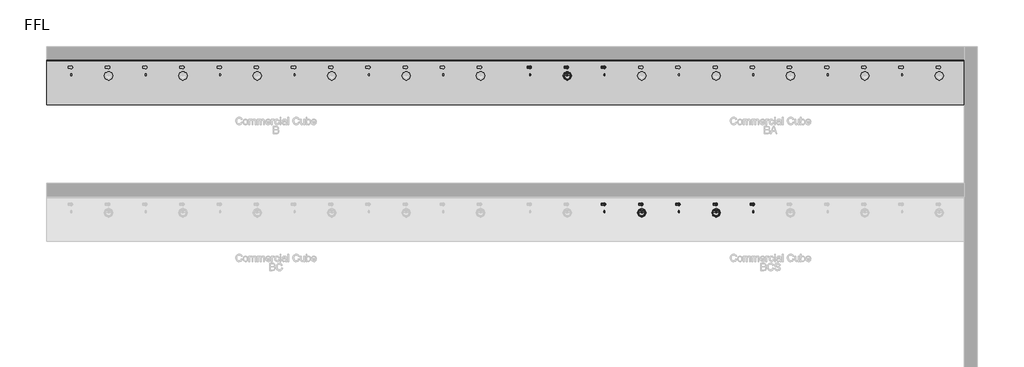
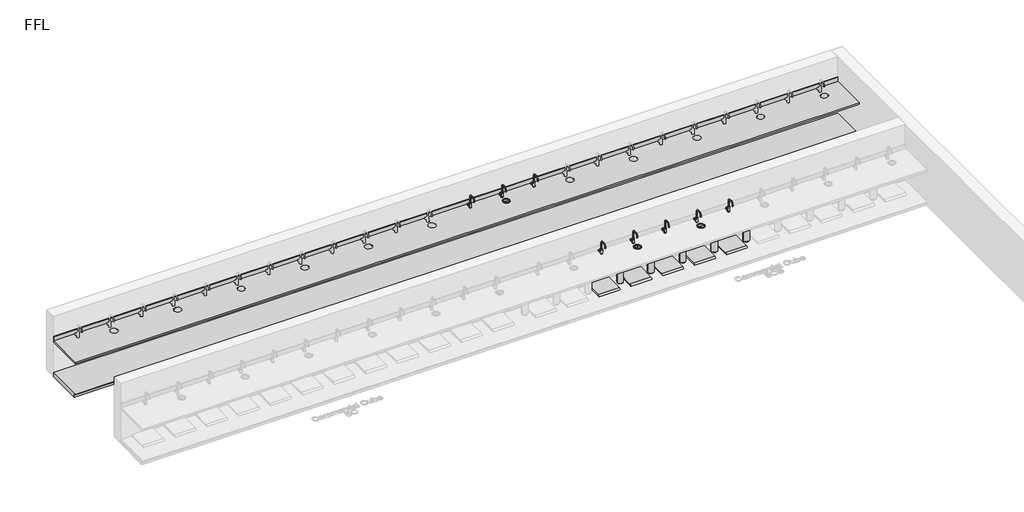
# One storey, part 7 of 14: 21 flow terminals, 2 furniture elements.
"""IFC4 building model written with IfcOpenShell, lengths in millimetres."""

from ifc_helpers import new_model, si_unit, frame, origin, place, context, project, spatial, polyline, circle_curve, transform, mapped, element, save
from ifc_brep_helpers import plane_surface, revolved_surface, advanced_brep
from components import bcs_and_bc_6de74493, bright_chrome_cb32e6d9, bright_chrome_743c02cf, co2_gas_cylinder_20234e14, generic_plinth_900mm_f287d53f

model = new_model("IFC4")

# Units and contexts
model_context = context("Model", 3, world=origin())
ifc_project = project(units=[si_unit("LENGTHUNIT", "METRE", prefix="MILLI")], contexts=[model_context])

# Site, building, storey
site = spatial("IfcSite", under=ifc_project)
building = spatial("IfcBuilding", under=site)
storey = spatial("IfcBuildingStorey", under=building, Name="FFL", Elevation=0.0)

# Flow terminals
placement = place(None, origin())
bcs_and_bc_shape = bcs_and_bc_6de74493(model_context)
element("IfcFlowTerminal", 1, ObjectType="z_PlumFixt_Zip_Vent Tray : BCS and BC", at=placement, inside=storey, context=model_context, shape_type="MappedRepresentation", body=[
    mapped(bcs_and_bc_shape, transform((4279.2647071, 4945.7393304, 100.0), x_axis=(1.0, 0.0, 0.0), y_axis=(0.0, 1.0, 0.0), z_axis=(0.0, 0.0, 1.0))),
])
element("IfcFlowTerminal", 2, ObjectType="z_PlumFixt_Zip_Vent Tray : BCS and BC", at=placement, inside=storey, context=model_context, shape_type="MappedRepresentation", body=[
    mapped(bcs_and_bc_shape, transform((5029.2647071, 4945.7393304, 100.0), x_axis=(1.0, 0.0, 0.0), y_axis=(0.0, 1.0, 0.0), z_axis=(0.0, 0.0, 1.0))),
])
element("IfcFlowTerminal", 3, ObjectType="z_PlumFixt_Zip_Vent Tray : BCS and BC", at=placement, inside=storey, context=model_context, shape_type="MappedRepresentation", body=[
    mapped(bcs_and_bc_shape, transform((5779.2647071, 4945.7393304, 100.0), x_axis=(1.0, 0.0, 0.0), y_axis=(0.0, 1.0, 0.0), z_axis=(0.0, 0.0, 1.0))),
])
element("IfcFlowTerminal", 4, ObjectType="z_PlumFixt_Zip_Vent Tray : BCS and BC", at=placement, inside=storey, context=model_context, shape_type="MappedRepresentation", body=[
    mapped(bcs_and_bc_shape, transform((6529.2647071, 4945.7393304, 100.0), x_axis=(1.0, 0.0, 0.0), y_axis=(0.0, 1.0, 0.0), z_axis=(0.0, 0.0, 1.0))),
])
element("IfcFlowTerminal", 5, ObjectType="z_PlumFixt_Zip_Vent Tray : BCS and BC", at=placement, inside=storey, context=model_context, shape_type="MappedRepresentation", body=[
    mapped(bcs_and_bc_shape, transform((7279.2647071, 4945.7393304, 100.0), x_axis=(1.0, 0.0, 0.0), y_axis=(0.0, 1.0, 0.0), z_axis=(0.0, 0.0, 1.0))),
])
bright_chrome_shape = bright_chrome_cb32e6d9(model_context)
element("IfcFlowTerminal", 6, ObjectType="z_PlumFixt_Zip_Cube : Bright Chrome", at=placement, inside=storey, context=model_context, shape_type="MappedRepresentation", body=[
    mapped(bright_chrome_shape, transform((2762.2647071, 7610.7393304, 900.0), x_axis=(1.0000000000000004, 0.0, 0.0), y_axis=(0.0, 1.0000000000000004, 0.0), z_axis=(0.0, 0.0, 1.0))),
])
bright_chrome_2_shape = bright_chrome_743c02cf(model_context)
element("IfcFlowTerminal", 7, ObjectType="z_PlumFixt_Zip_Font : Brushed Chrome", at=placement, inside=storey, context=model_context, shape_type="MappedRepresentation", body=[
    mapped(bright_chrome_2_shape, transform((3529.2647071, 7511.2393304, 900.0), x_axis=(1.0000000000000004, 0.0, 0.0), y_axis=(0.0, 1.0000000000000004, 0.0), z_axis=(0.0, 0.0, 1.0))),
])
element("IfcFlowTerminal", 8, ObjectType="z_PlumFixt_Zip_Font : Brushed Chrome", at=placement, inside=storey, context=model_context, shape_type="MappedRepresentation", body=[
    mapped(bright_chrome_2_shape, transform((5029.2647071, 4751.2393304, 900.0), x_axis=(1.0000000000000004, 0.0, 0.0), y_axis=(0.0, 1.0000000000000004, 0.0), z_axis=(0.0, 0.0, 1.0))),
])
element("IfcFlowTerminal", 9, ObjectType="z_PlumFixt_Zip_Font : Brushed Chrome", at=placement, inside=storey, context=model_context, shape_type="MappedRepresentation", body=[
    mapped(bright_chrome_2_shape, transform((6529.2647071, 4751.2393304, 900.0), x_axis=(1.0000000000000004, 0.0, 0.0), y_axis=(0.0, 1.0000000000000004, 0.0), z_axis=(0.0, 0.0, 1.0))),
])
element("IfcFlowTerminal", 10, ObjectType="z_PlumFixt_Zip_Cube : Brushed Chrome", at=placement, inside=storey, context=model_context, shape_type="MappedRepresentation", body=[
    mapped(bright_chrome_shape, transform((3512.2647071, 7610.7393304, 900.0), x_axis=(1.0000000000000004, 0.0, 0.0), y_axis=(0.0, 1.0000000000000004, 0.0), z_axis=(0.0, 0.0, 1.0))),
])
element("IfcFlowTerminal", 11, ObjectType="z_PlumFixt_Zip_Cube : Brushed Gold", at=placement, inside=storey, context=model_context, shape_type="MappedRepresentation", body=[
    mapped(bright_chrome_shape, transform((4262.2647071, 7610.7393304, 900.0), x_axis=(1.0000000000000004, 0.0, 0.0), y_axis=(0.0, 1.0000000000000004, 0.0), z_axis=(0.0, 0.0, 1.0))),
])
element("IfcFlowTerminal", 12, ObjectType="z_PlumFixt_Zip_Cube : Brushed Gold", at=placement, inside=storey, context=model_context, shape_type="MappedRepresentation", body=[
    mapped(bright_chrome_shape, transform((4262.2647071, 4850.7393304, 900.0), x_axis=(1.0000000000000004, 0.0, 0.0), y_axis=(0.0, 1.0000000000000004, 0.0), z_axis=(0.0, 0.0, 1.0))),
])
element("IfcFlowTerminal", 13, ObjectType="z_PlumFixt_Zip_Cube : Brushed Nickel", at=placement, inside=storey, context=model_context, shape_type="MappedRepresentation", body=[
    mapped(bright_chrome_shape, transform((5012.2647071, 4850.7393304, 900.0), x_axis=(1.0000000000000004, 0.0, 0.0), y_axis=(0.0, 1.0000000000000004, 0.0), z_axis=(0.0, 0.0, 1.0))),
])
element("IfcFlowTerminal", 14, ObjectType="z_PlumFixt_Zip_Cube : Brushed Rose Gold", at=placement, inside=storey, context=model_context, shape_type="MappedRepresentation", body=[
    mapped(bright_chrome_shape, transform((5762.2647071, 4850.7393304, 900.0), x_axis=(1.0000000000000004, 0.0, 0.0), y_axis=(0.0, 1.0000000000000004, 0.0), z_axis=(0.0, 0.0, 1.0))),
])
co2_gas_cylinder_shape = co2_gas_cylinder_20234e14(model_context)
element("IfcFlowTerminal", 15, ObjectType="z_PlumFixt_Zip_CO2 Gas Cylinder : CO2 Gas Cylinder", at=placement, inside=storey, context=model_context, shape_type="MappedRepresentation", body=[
    mapped(co2_gas_cylinder_shape, transform((4662.2647071, 4750.7393304, 100.0), x_axis=(-1.0, 0.0, 0.0), y_axis=(0.0, -1.0, 0.0), z_axis=(0.0, 0.0, 1.0))),
])
element("IfcFlowTerminal", 16, ObjectType="z_PlumFixt_Zip_CO2 Gas Cylinder : CO2 Gas Cylinder", at=placement, inside=storey, context=model_context, shape_type="MappedRepresentation", body=[
    mapped(co2_gas_cylinder_shape, transform((5384.2647071, 4749.2393304, 100.0), x_axis=(-1.0, 0.0, 0.0), y_axis=(0.0, -1.0, 0.0), z_axis=(0.0, 0.0, 1.0))),
])
element("IfcFlowTerminal", 17, ObjectType="z_PlumFixt_Zip_CO2 Gas Cylinder : CO2 Gas Cylinder", at=placement, inside=storey, context=model_context, shape_type="MappedRepresentation", body=[
    mapped(co2_gas_cylinder_shape, transform((6134.2647071, 4749.2393304, 100.0), x_axis=(-1.0, 0.0, 0.0), y_axis=(0.0, -1.0, 0.0), z_axis=(0.0, 0.0, 1.0))),
])
element("IfcFlowTerminal", 18, ObjectType="z_PlumFixt_Zip_CO2 Gas Cylinder : CO2 Gas Cylinder", at=placement, inside=storey, context=model_context, shape_type="MappedRepresentation", body=[
    mapped(co2_gas_cylinder_shape, transform((6884.2647071, 4749.2393304, 100.0), x_axis=(-1.0, 0.0, 0.0), y_axis=(0.0, -1.0, 0.0), z_axis=(0.0, 0.0, 1.0))),
])
element("IfcFlowTerminal", 19, ObjectType="z_PlumFixt_Zip_CO2 Gas Cylinder : CO2 Gas Cylinder", at=placement, inside=storey, context=model_context, shape_type="MappedRepresentation", body=[
    mapped(co2_gas_cylinder_shape, transform((7634.2647071, 4749.2393304, 100.0), x_axis=(-1.0, 0.0, 0.0), y_axis=(0.0, -1.0, 0.0), z_axis=(0.0, 0.0, 1.0))),
])
element("IfcFlowTerminal", 20, ObjectType="z_PlumFixt_Zip_Cube : Gloss Black", at=placement, inside=storey, context=model_context, shape_type="MappedRepresentation", body=[
    mapped(bright_chrome_shape, transform((6512.2647071, 4850.7393304, 900.0), x_axis=(1.0000000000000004, 0.0, 0.0), y_axis=(0.0, 1.0000000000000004, 0.0), z_axis=(0.0, 0.0, 1.0))),
])
element("IfcFlowTerminal", 21, ObjectType="z_PlumFixt_Zip_Cube : Gold", at=placement, inside=storey, context=model_context, shape_type="MappedRepresentation", body=[
    mapped(bright_chrome_shape, transform((7262.2647071, 4850.7393304, 900.0), x_axis=(1.0000000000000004, 0.0, 0.0), y_axis=(0.0, 1.0000000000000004, 0.0), z_axis=(0.0, 0.0, 1.0))),
])

# Furniture
element("IfcFurniture", 22, ObjectType="Counter Top : 900mm Depth", at=placement, inside=storey, context=model_context, shape_type="AdvancedBrep", body=[
    advanced_brep(
    [(-6969.7352929, 6948.2393304, 900.0), (11530.2647071, 6948.2393304, 900.0), (11530.2647071, 7829.1893304, 900.0), (-6969.7352929, 7829.1893304, 900.0), (-6493.7352929, 7698.2393304, 900.0), (-6445.7352929, 7698.2393304, 900.0), (-5743.7352929, 7698.2393304, 900.0), (-5695.7352929, 7698.2393304, 900.0), (-5787.9352929, 7526.2393304, 900.0), (-5651.5352929, 7526.2393304, 900.0), (-4993.7352929, 7698.2393304, 900.0), (-4945.7352929, 7698.2393304, 900.0), (-4243.7352929, 7698.2393304, 900.0), (-4195.7352929, 7698.2393304, 900.0), (-4287.9352929, 7526.2393304, 900.0), (-4151.5352929, 7526.2393304, 900.0), (-3493.7352929, 7698.2393304, 900.0), (-3445.7352929, 7698.2393304, 900.0), (-2743.7352929, 7698.2393304, 900.0), (-2695.7352929, 7698.2393304, 900.0), (-2787.9352929, 7526.2393304, 900.0), (-2651.5352929, 7526.2393304, 900.0), (-1993.7352929, 7698.2393304, 900.0), (-1945.7352929, 7698.2393304, 900.0), (-1243.7352929, 7698.2393304, 900.0), (-1195.7352929, 7698.2393304, 900.0), (-1287.9352929, 7526.2393304, 900.0), (-1151.5352929, 7526.2393304, 900.0), (-493.7352929, 7698.2393304, 900.0), (-445.7352929, 7698.2393304, 900.0), (256.2647071, 7698.2393304, 900.0), (304.2647071, 7698.2393304, 900.0), (212.0647071, 7526.2393304, 900.0), (348.4647071, 7526.2393304, 900.0), (1006.2647071, 7698.2393304, 900.0), (1054.2647071, 7698.2393304, 900.0), (1756.2647071, 7698.2393304, 900.0), (1804.2647071, 7698.2393304, 900.0), (1712.0647071, 7526.2393304, 900.0), (1848.4647071, 7526.2393304, 900.0), (2756.2647071, 7698.2393304, 900.0), (2804.2647071, 7698.2393304, 900.0), (3506.2647071, 7698.2393304, 900.0), (3554.2647071, 7698.2393304, 900.0), (3462.0647071, 7526.2393304, 900.0), (3598.4647071, 7526.2393304, 900.0), (4256.2647071, 7698.2393304, 900.0), (4304.2647071, 7698.2393304, 900.0), (5006.2647071, 7698.2393304, 900.0), (5054.2647071, 7698.2393304, 900.0), (4962.0647071, 7526.2393304, 900.0), (5098.4647071, 7526.2393304, 900.0), (5756.2647071, 7698.2393304, 900.0), (5804.2647071, 7698.2393304, 900.0), (6506.2647071, 7698.2393304, 900.0), (6554.2647071, 7698.2393304, 900.0), (6462.0647071, 7526.2393304, 900.0), (6598.4647071, 7526.2393304, 900.0), (7256.2647071, 7698.2393304, 900.0), (7304.2647071, 7698.2393304, 900.0), (8006.2647071, 7698.2393304, 900.0), (8054.2647071, 7698.2393304, 900.0), (7962.0647071, 7526.2393304, 900.0), (8098.4647071, 7526.2393304, 900.0), (8756.2647071, 7698.2393304, 900.0), (8804.2647071, 7698.2393304, 900.0), (9506.2647071, 7698.2393304, 900.0), (9554.2647071, 7698.2393304, 900.0), (9462.0647071, 7526.2393304, 900.0), (9598.4647071, 7526.2393304, 900.0), (10256.2647071, 7698.2393304, 900.0), (10304.2647071, 7698.2393304, 900.0), (11006.2647071, 7698.2393304, 900.0), (11054.2647071, 7698.2393304, 900.0), (10962.0647071, 7526.2393304, 900.0), (11098.4647071, 7526.2393304, 900.0), (11530.2647071, 7848.2393304, 860.0), (11530.2647071, 6948.2393304, 860.0), (-6969.7352929, 6948.2393304, 860.0), (-6969.7352929, 7848.2393304, 860.0), (-6445.7352929, 7698.2393304, 860.0), (-6493.7352929, 7698.2393304, 860.0), (-5695.7352929, 7698.2393304, 860.0), (-5743.7352929, 7698.2393304, 860.0), (-5651.5352929, 7526.2393304, 860.0), (-5787.9352929, 7526.2393304, 860.0), (-4945.7352929, 7698.2393304, 860.0), (-4993.7352929, 7698.2393304, 860.0), (-4195.7352929, 7698.2393304, 860.0), (-4243.7352929, 7698.2393304, 860.0), (-4151.5352929, 7526.2393304, 860.0), (-4287.9352929, 7526.2393304, 860.0), (-3445.7352929, 7698.2393304, 860.0), (-3493.7352929, 7698.2393304, 860.0), (-2695.7352929, 7698.2393304, 860.0), (-2743.7352929, 7698.2393304, 860.0), (-2651.5352929, 7526.2393304, 860.0), (-2787.9352929, 7526.2393304, 860.0), (-1945.7352929, 7698.2393304, 860.0), (-1993.7352929, 7698.2393304, 860.0), (-1195.7352929, 7698.2393304, 860.0), (-1243.7352929, 7698.2393304, 860.0), (-1151.5352929, 7526.2393304, 860.0), (-1287.9352929, 7526.2393304, 860.0), (-445.7352929, 7698.2393304, 860.0), (-493.7352929, 7698.2393304, 860.0), (304.2647071, 7698.2393304, 860.0), (256.2647071, 7698.2393304, 860.0), (348.4647071, 7526.2393304, 860.0), (212.0647071, 7526.2393304, 860.0), (1054.2647071, 7698.2393304, 860.0), (1006.2647071, 7698.2393304, 860.0), (1804.2647071, 7698.2393304, 860.0), (1756.2647071, 7698.2393304, 860.0), (1848.4647071, 7526.2393304, 860.0), (1712.0647071, 7526.2393304, 860.0), (2804.2647071, 7698.2393304, 860.0), (2756.2647071, 7698.2393304, 860.0), (3554.2647071, 7698.2393304, 860.0), (3506.2647071, 7698.2393304, 860.0), (3598.4647071, 7526.2393304, 860.0), (3462.0647071, 7526.2393304, 860.0), (4304.2647071, 7698.2393304, 860.0), (4256.2647071, 7698.2393304, 860.0), (5054.2647071, 7698.2393304, 860.0), (5006.2647071, 7698.2393304, 860.0), (5098.4647071, 7526.2393304, 860.0), (4962.0647071, 7526.2393304, 860.0), (5804.2647071, 7698.2393304, 860.0), (5756.2647071, 7698.2393304, 860.0), (6554.2647071, 7698.2393304, 860.0), (6506.2647071, 7698.2393304, 860.0), (6598.4647071, 7526.2393304, 860.0), (6462.0647071, 7526.2393304, 860.0), (7304.2647071, 7698.2393304, 860.0), (7256.2647071, 7698.2393304, 860.0), (8054.2647071, 7698.2393304, 860.0), (8006.2647071, 7698.2393304, 860.0), (8098.4647071, 7526.2393304, 860.0), (7962.0647071, 7526.2393304, 860.0), (8804.2647071, 7698.2393304, 860.0), (8756.2647071, 7698.2393304, 860.0), (9554.2647071, 7698.2393304, 860.0), (9506.2647071, 7698.2393304, 860.0), (9598.4647071, 7526.2393304, 860.0), (9462.0647071, 7526.2393304, 860.0), (10304.2647071, 7698.2393304, 860.0), (10256.2647071, 7698.2393304, 860.0), (11054.2647071, 7698.2393304, 860.0), (11006.2647071, 7698.2393304, 860.0), (11098.4647071, 7526.2393304, 860.0), (10962.0647071, 7526.2393304, 860.0), (-6969.7352929, 7848.2393304, 1001.6), (11530.2647071, 7848.2393304, 1001.6), (-6969.7352929, 7829.1893304, 1001.6), (11530.2647071, 7829.1893304, 1001.6)],
    [
        (0, 1),
        (1, 2),
        (2, 3),
        (3, 0),
        (4, 5, circle_curve(frame((-6469.7352929, 7698.2393304, 900.0), z_axis=(0.0, 0.0, -1.0), x_axis=(-1.0000000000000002, 0.0, 0.0)), 24.0)),
        (5, 4, circle_curve(frame((-6469.7352929, 7698.2393304, 900.0), z_axis=(0.0, 0.0, -1.0), x_axis=(-1.0000000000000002, 0.0, 0.0)), 24.0)),
        (6, 7, circle_curve(frame((-5719.7352929, 7698.2393304, 900.0), z_axis=(0.0, 0.0, -1.0), x_axis=(-1.0000000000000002, 0.0, 0.0)), 24.0)),
        (7, 6, circle_curve(frame((-5719.7352929, 7698.2393304, 900.0), z_axis=(0.0, 0.0, -1.0), x_axis=(-1.0000000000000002, 0.0, 0.0)), 24.0)),
        (8, 9, circle_curve(frame((-5719.7352929, 7526.2393304, 900.0), z_axis=(0.0, 0.0, -1.0), x_axis=(-1.0000000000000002, 0.0, 0.0)), 68.2)),
        (9, 8, circle_curve(frame((-5719.7352929, 7526.2393304, 900.0), z_axis=(0.0, 0.0, -1.0), x_axis=(-1.0000000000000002, 0.0, 0.0)), 68.2)),
        (10, 11, circle_curve(frame((-4969.7352929, 7698.2393304, 900.0), z_axis=(0.0, 0.0, -1.0), x_axis=(-1.0000000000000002, 0.0, 0.0)), 24.0)),
        (11, 10, circle_curve(frame((-4969.7352929, 7698.2393304, 900.0), z_axis=(0.0, 0.0, -1.0), x_axis=(-1.0000000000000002, 0.0, 0.0)), 24.0)),
        (12, 13, circle_curve(frame((-4219.7352929, 7698.2393304, 900.0), z_axis=(0.0, 0.0, -1.0), x_axis=(-1.0000000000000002, 0.0, 0.0)), 24.0)),
        (13, 12, circle_curve(frame((-4219.7352929, 7698.2393304, 900.0), z_axis=(0.0, 0.0, -1.0), x_axis=(-1.0000000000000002, 0.0, 0.0)), 24.0)),
        (14, 15, circle_curve(frame((-4219.7352929, 7526.2393304, 900.0), z_axis=(0.0, 0.0, -1.0), x_axis=(-1.0000000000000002, 0.0, 0.0)), 68.2)),
        (15, 14, circle_curve(frame((-4219.7352929, 7526.2393304, 900.0), z_axis=(0.0, 0.0, -1.0), x_axis=(-1.0000000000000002, 0.0, 0.0)), 68.2)),
        (16, 17, circle_curve(frame((-3469.7352929, 7698.2393304, 900.0), z_axis=(0.0, 0.0, -1.0), x_axis=(-1.0000000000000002, 0.0, 0.0)), 24.0)),
        (17, 16, circle_curve(frame((-3469.7352929, 7698.2393304, 900.0), z_axis=(0.0, 0.0, -1.0), x_axis=(-1.0000000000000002, 0.0, 0.0)), 24.0)),
        (18, 19, circle_curve(frame((-2719.7352929, 7698.2393304, 900.0), z_axis=(0.0, 0.0, -1.0), x_axis=(-1.0000000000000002, 0.0, 0.0)), 24.0)),
        (19, 18, circle_curve(frame((-2719.7352929, 7698.2393304, 900.0), z_axis=(0.0, 0.0, -1.0), x_axis=(-1.0000000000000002, 0.0, 0.0)), 24.0)),
        (20, 21, circle_curve(frame((-2719.7352929, 7526.2393304, 900.0), z_axis=(0.0, 0.0, -1.0), x_axis=(-1.0000000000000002, 0.0, 0.0)), 68.2)),
        (21, 20, circle_curve(frame((-2719.7352929, 7526.2393304, 900.0), z_axis=(0.0, 0.0, -1.0), x_axis=(-1.0000000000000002, 0.0, 0.0)), 68.2)),
        (22, 23, circle_curve(frame((-1969.7352929, 7698.2393304, 900.0), z_axis=(0.0, 0.0, -1.0), x_axis=(-1.0000000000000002, 0.0, 0.0)), 24.0)),
        (23, 22, circle_curve(frame((-1969.7352929, 7698.2393304, 900.0), z_axis=(0.0, 0.0, -1.0), x_axis=(-1.0000000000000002, 0.0, 0.0)), 24.0)),
        (24, 25, circle_curve(frame((-1219.7352929, 7698.2393304, 900.0), z_axis=(0.0, 0.0, -1.0), x_axis=(-1.0000000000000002, 0.0, 0.0)), 24.0)),
        (25, 24, circle_curve(frame((-1219.7352929, 7698.2393304, 900.0), z_axis=(0.0, 0.0, -1.0), x_axis=(-1.0000000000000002, 0.0, 0.0)), 24.0)),
        (26, 27, circle_curve(frame((-1219.7352929, 7526.2393304, 900.0), z_axis=(0.0, 0.0, -1.0), x_axis=(-1.0000000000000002, 0.0, 0.0)), 68.2)),
        (27, 26, circle_curve(frame((-1219.7352929, 7526.2393304, 900.0), z_axis=(0.0, 0.0, -1.0), x_axis=(-1.0000000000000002, 0.0, 0.0)), 68.2)),
        (28, 29, circle_curve(frame((-469.7352929, 7698.2393304, 900.0), z_axis=(0.0, 0.0, -1.0), x_axis=(-1.0000000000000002, 0.0, 0.0)), 24.0)),
        (29, 28, circle_curve(frame((-469.7352929, 7698.2393304, 900.0), z_axis=(0.0, 0.0, -1.0), x_axis=(-1.0000000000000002, 0.0, 0.0)), 24.0)),
        (30, 31, circle_curve(frame((280.2647071, 7698.2393304, 900.0), z_axis=(0.0, 0.0, -1.0), x_axis=(-1.0000000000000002, 0.0, 0.0)), 24.0)),
        (31, 30, circle_curve(frame((280.2647071, 7698.2393304, 900.0), z_axis=(0.0, 0.0, -1.0), x_axis=(-1.0000000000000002, 0.0, 0.0)), 24.0)),
        (32, 33, circle_curve(frame((280.2647071, 7526.2393304, 900.0), z_axis=(0.0, 0.0, -1.0), x_axis=(-1.0000000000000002, 0.0, 0.0)), 68.2)),
        (33, 32, circle_curve(frame((280.2647071, 7526.2393304, 900.0), z_axis=(0.0, 0.0, -1.0), x_axis=(-1.0000000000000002, 0.0, 0.0)), 68.2)),
        (34, 35, circle_curve(frame((1030.2647071, 7698.2393304, 900.0), z_axis=(0.0, 0.0, -1.0), x_axis=(-1.0000000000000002, 0.0, 0.0)), 24.0)),
        (35, 34, circle_curve(frame((1030.2647071, 7698.2393304, 900.0), z_axis=(0.0, 0.0, -1.0), x_axis=(-1.0000000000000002, 0.0, 0.0)), 24.0)),
        (36, 37, circle_curve(frame((1780.2647071, 7698.2393304, 900.0), z_axis=(0.0, 0.0, -1.0), x_axis=(-1.0000000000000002, 0.0, 0.0)), 24.0)),
        (37, 36, circle_curve(frame((1780.2647071, 7698.2393304, 900.0), z_axis=(0.0, 0.0, -1.0), x_axis=(-1.0000000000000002, 0.0, 0.0)), 24.0)),
        (38, 39, circle_curve(frame((1780.2647071, 7526.2393304, 900.0), z_axis=(0.0, 0.0, -1.0), x_axis=(-1.0000000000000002, 0.0, 0.0)), 68.2)),
        (39, 38, circle_curve(frame((1780.2647071, 7526.2393304, 900.0), z_axis=(0.0, 0.0, -1.0), x_axis=(-1.0000000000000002, 0.0, 0.0)), 68.2)),
        (40, 41, circle_curve(frame((2780.2647071, 7698.2393304, 900.0), z_axis=(0.0, 0.0, -1.0), x_axis=(-1.0000000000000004, 0.0, 0.0)), 24.0)),
        (41, 40, circle_curve(frame((2780.2647071, 7698.2393304, 900.0), z_axis=(0.0, 0.0, -1.0), x_axis=(-1.0000000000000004, 0.0, 0.0)), 24.0)),
        (42, 43, circle_curve(frame((3530.2647071, 7698.2393304, 900.0), z_axis=(0.0, 0.0, -1.0), x_axis=(-1.0000000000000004, 0.0, 0.0)), 24.0)),
        (43, 42, circle_curve(frame((3530.2647071, 7698.2393304, 900.0), z_axis=(0.0, 0.0, -1.0), x_axis=(-1.0000000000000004, 0.0, 0.0)), 24.0)),
        (44, 45, circle_curve(frame((3530.2647071, 7526.2393304, 900.0), z_axis=(0.0, 0.0, -1.0), x_axis=(-1.0000000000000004, 0.0, 0.0)), 68.2)),
        (45, 44, circle_curve(frame((3530.2647071, 7526.2393304, 900.0), z_axis=(0.0, 0.0, -1.0), x_axis=(-1.0000000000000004, 0.0, 0.0)), 68.2)),
        (46, 47, circle_curve(frame((4280.2647071, 7698.2393304, 900.0), z_axis=(0.0, 0.0, -1.0), x_axis=(-1.0000000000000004, 0.0, 0.0)), 24.0)),
        (47, 46, circle_curve(frame((4280.2647071, 7698.2393304, 900.0), z_axis=(0.0, 0.0, -1.0), x_axis=(-1.0000000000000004, 0.0, 0.0)), 24.0)),
        (48, 49, circle_curve(frame((5030.2647071, 7698.2393304, 900.0), z_axis=(0.0, 0.0, -1.0), x_axis=(-1.0000000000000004, 0.0, 0.0)), 24.0)),
        (49, 48, circle_curve(frame((5030.2647071, 7698.2393304, 900.0), z_axis=(0.0, 0.0, -1.0), x_axis=(-1.0000000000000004, 0.0, 0.0)), 24.0)),
        (50, 51, circle_curve(frame((5030.2647071, 7526.2393304, 900.0), z_axis=(0.0, 0.0, -1.0), x_axis=(-1.0000000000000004, 0.0, 0.0)), 68.2)),
        (51, 50, circle_curve(frame((5030.2647071, 7526.2393304, 900.0), z_axis=(0.0, 0.0, -1.0), x_axis=(-1.0000000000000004, 0.0, 0.0)), 68.2)),
        (52, 53, circle_curve(frame((5780.2647071, 7698.2393304, 900.0), z_axis=(0.0, 0.0, -1.0), x_axis=(-1.0000000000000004, 0.0, 0.0)), 24.0)),
        (53, 52, circle_curve(frame((5780.2647071, 7698.2393304, 900.0), z_axis=(0.0, 0.0, -1.0), x_axis=(-1.0000000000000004, 0.0, 0.0)), 24.0)),
        (54, 55, circle_curve(frame((6530.2647071, 7698.2393304, 900.0), z_axis=(0.0, 0.0, -1.0), x_axis=(-1.0000000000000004, 0.0, 0.0)), 24.0)),
        (55, 54, circle_curve(frame((6530.2647071, 7698.2393304, 900.0), z_axis=(0.0, 0.0, -1.0), x_axis=(-1.0000000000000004, 0.0, 0.0)), 24.0)),
        (56, 57, circle_curve(frame((6530.2647071, 7526.2393304, 900.0), z_axis=(0.0, 0.0, -1.0), x_axis=(-1.0000000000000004, 0.0, 0.0)), 68.2)),
        (57, 56, circle_curve(frame((6530.2647071, 7526.2393304, 900.0), z_axis=(0.0, 0.0, -1.0), x_axis=(-1.0000000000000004, 0.0, 0.0)), 68.2)),
        (58, 59, circle_curve(frame((7280.2647071, 7698.2393304, 900.0), z_axis=(0.0, 0.0, -1.0), x_axis=(-1.0000000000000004, 0.0, 0.0)), 24.0)),
        (59, 58, circle_curve(frame((7280.2647071, 7698.2393304, 900.0), z_axis=(0.0, 0.0, -1.0), x_axis=(-1.0000000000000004, 0.0, 0.0)), 24.0)),
        (60, 61, circle_curve(frame((8030.2647071, 7698.2393304, 900.0), z_axis=(0.0, 0.0, -1.0), x_axis=(-1.0000000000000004, 0.0, 0.0)), 24.0)),
        (61, 60, circle_curve(frame((8030.2647071, 7698.2393304, 900.0), z_axis=(0.0, 0.0, -1.0), x_axis=(-1.0000000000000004, 0.0, 0.0)), 24.0)),
        (62, 63, circle_curve(frame((8030.2647071, 7526.2393304, 900.0), z_axis=(0.0, 0.0, -1.0), x_axis=(-1.0000000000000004, 0.0, 0.0)), 68.2)),
        (63, 62, circle_curve(frame((8030.2647071, 7526.2393304, 900.0), z_axis=(0.0, 0.0, -1.0), x_axis=(-1.0000000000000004, 0.0, 0.0)), 68.2)),
        (64, 65, circle_curve(frame((8780.2647071, 7698.2393304, 900.0), z_axis=(0.0, 0.0, -1.0), x_axis=(-1.0000000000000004, 0.0, 0.0)), 24.0)),
        (65, 64, circle_curve(frame((8780.2647071, 7698.2393304, 900.0), z_axis=(0.0, 0.0, -1.0), x_axis=(-1.0000000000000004, 0.0, 0.0)), 24.0)),
        (66, 67, circle_curve(frame((9530.2647071, 7698.2393304, 900.0), z_axis=(0.0, 0.0, -1.0), x_axis=(-1.0000000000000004, 0.0, 0.0)), 24.0)),
        (67, 66, circle_curve(frame((9530.2647071, 7698.2393304, 900.0), z_axis=(0.0, 0.0, -1.0), x_axis=(-1.0000000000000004, 0.0, 0.0)), 24.0)),
        (68, 69, circle_curve(frame((9530.2647071, 7526.2393304, 900.0), z_axis=(0.0, 0.0, -1.0), x_axis=(-1.0000000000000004, 0.0, 0.0)), 68.2)),
        (69, 68, circle_curve(frame((9530.2647071, 7526.2393304, 900.0), z_axis=(0.0, 0.0, -1.0), x_axis=(-1.0000000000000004, 0.0, 0.0)), 68.2)),
        (70, 71, circle_curve(frame((10280.2647071, 7698.2393304, 900.0), z_axis=(0.0, 0.0, -1.0), x_axis=(-1.0000000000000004, 0.0, 0.0)), 24.0)),
        (71, 70, circle_curve(frame((10280.2647071, 7698.2393304, 900.0), z_axis=(0.0, 0.0, -1.0), x_axis=(-1.0000000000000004, 0.0, 0.0)), 24.0)),
        (72, 73, circle_curve(frame((11030.2647071, 7698.2393304, 900.0), z_axis=(0.0, 0.0, -1.0), x_axis=(-1.0000000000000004, 0.0, 0.0)), 24.0)),
        (73, 72, circle_curve(frame((11030.2647071, 7698.2393304, 900.0), z_axis=(0.0, 0.0, -1.0), x_axis=(-1.0000000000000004, 0.0, 0.0)), 24.0)),
        (74, 75, circle_curve(frame((11030.2647071, 7526.2393304, 900.0), z_axis=(0.0, 0.0, -1.0), x_axis=(-1.0000000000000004, 0.0, 0.0)), 68.2)),
        (75, 74, circle_curve(frame((11030.2647071, 7526.2393304, 900.0), z_axis=(0.0, 0.0, -1.0), x_axis=(-1.0000000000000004, 0.0, 0.0)), 68.2)),
        (76, 77),
        (77, 78),
        (78, 79),
        (79, 76),
        (80, 81, circle_curve(frame((-6469.7352929, 7698.2393304, 860.0), z_axis=(0.0, 0.0, 1.0), x_axis=(-1.0000000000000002, 0.0, 0.0)), 24.0)),
        (81, 80, circle_curve(frame((-6469.7352929, 7698.2393304, 860.0), z_axis=(0.0, 0.0, 1.0), x_axis=(-1.0000000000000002, 0.0, 0.0)), 24.0)),
        (82, 83, circle_curve(frame((-5719.7352929, 7698.2393304, 860.0), z_axis=(0.0, 0.0, 1.0), x_axis=(-1.0000000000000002, 0.0, 0.0)), 24.0)),
        (83, 82, circle_curve(frame((-5719.7352929, 7698.2393304, 860.0), z_axis=(0.0, 0.0, 1.0), x_axis=(-1.0000000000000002, 0.0, 0.0)), 24.0)),
        (84, 85, circle_curve(frame((-5719.7352929, 7526.2393304, 860.0), z_axis=(0.0, 0.0, 1.0), x_axis=(-1.0000000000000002, 0.0, 0.0)), 68.2)),
        (85, 84, circle_curve(frame((-5719.7352929, 7526.2393304, 860.0), z_axis=(0.0, 0.0, 1.0), x_axis=(-1.0000000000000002, 0.0, 0.0)), 68.2)),
        (86, 87, circle_curve(frame((-4969.7352929, 7698.2393304, 860.0), z_axis=(0.0, 0.0, 1.0), x_axis=(-1.0000000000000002, 0.0, 0.0)), 24.0)),
        (87, 86, circle_curve(frame((-4969.7352929, 7698.2393304, 860.0), z_axis=(0.0, 0.0, 1.0), x_axis=(-1.0000000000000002, 0.0, 0.0)), 24.0)),
        (88, 89, circle_curve(frame((-4219.7352929, 7698.2393304, 860.0), z_axis=(0.0, 0.0, 1.0), x_axis=(-1.0000000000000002, 0.0, 0.0)), 24.0)),
        (89, 88, circle_curve(frame((-4219.7352929, 7698.2393304, 860.0), z_axis=(0.0, 0.0, 1.0), x_axis=(-1.0000000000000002, 0.0, 0.0)), 24.0)),
        (90, 91, circle_curve(frame((-4219.7352929, 7526.2393304, 860.0), z_axis=(0.0, 0.0, 1.0), x_axis=(-1.0000000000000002, 0.0, 0.0)), 68.2)),
        (91, 90, circle_curve(frame((-4219.7352929, 7526.2393304, 860.0), z_axis=(0.0, 0.0, 1.0), x_axis=(-1.0000000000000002, 0.0, 0.0)), 68.2)),
        (92, 93, circle_curve(frame((-3469.7352929, 7698.2393304, 860.0), z_axis=(0.0, 0.0, 1.0), x_axis=(-1.0000000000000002, 0.0, 0.0)), 24.0)),
        (93, 92, circle_curve(frame((-3469.7352929, 7698.2393304, 860.0), z_axis=(0.0, 0.0, 1.0), x_axis=(-1.0000000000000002, 0.0, 0.0)), 24.0)),
        (94, 95, circle_curve(frame((-2719.7352929, 7698.2393304, 860.0), z_axis=(0.0, 0.0, 1.0), x_axis=(-1.0000000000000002, 0.0, 0.0)), 24.0)),
        (95, 94, circle_curve(frame((-2719.7352929, 7698.2393304, 860.0), z_axis=(0.0, 0.0, 1.0), x_axis=(-1.0000000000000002, 0.0, 0.0)), 24.0)),
        (96, 97, circle_curve(frame((-2719.7352929, 7526.2393304, 860.0), z_axis=(0.0, 0.0, 1.0), x_axis=(-1.0000000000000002, 0.0, 0.0)), 68.2)),
        (97, 96, circle_curve(frame((-2719.7352929, 7526.2393304, 860.0), z_axis=(0.0, 0.0, 1.0), x_axis=(-1.0000000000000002, 0.0, 0.0)), 68.2)),
        (98, 99, circle_curve(frame((-1969.7352929, 7698.2393304, 860.0), z_axis=(0.0, 0.0, 1.0), x_axis=(-1.0000000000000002, 0.0, 0.0)), 24.0)),
        (99, 98, circle_curve(frame((-1969.7352929, 7698.2393304, 860.0), z_axis=(0.0, 0.0, 1.0), x_axis=(-1.0000000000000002, 0.0, 0.0)), 24.0)),
        (100, 101, circle_curve(frame((-1219.7352929, 7698.2393304, 860.0), z_axis=(0.0, 0.0, 1.0), x_axis=(-1.0000000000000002, 0.0, 0.0)), 24.0)),
        (101, 100, circle_curve(frame((-1219.7352929, 7698.2393304, 860.0), z_axis=(0.0, 0.0, 1.0), x_axis=(-1.0000000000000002, 0.0, 0.0)), 24.0)),
        (102, 103, circle_curve(frame((-1219.7352929, 7526.2393304, 860.0), z_axis=(0.0, 0.0, 1.0), x_axis=(-1.0000000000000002, 0.0, 0.0)), 68.2)),
        (103, 102, circle_curve(frame((-1219.7352929, 7526.2393304, 860.0), z_axis=(0.0, 0.0, 1.0), x_axis=(-1.0000000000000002, 0.0, 0.0)), 68.2)),
        (104, 105, circle_curve(frame((-469.7352929, 7698.2393304, 860.0), z_axis=(0.0, 0.0, 1.0), x_axis=(-1.0000000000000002, 0.0, 0.0)), 24.0)),
        (105, 104, circle_curve(frame((-469.7352929, 7698.2393304, 860.0), z_axis=(0.0, 0.0, 1.0), x_axis=(-1.0000000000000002, 0.0, 0.0)), 24.0)),
        (106, 107, circle_curve(frame((280.2647071, 7698.2393304, 860.0), z_axis=(0.0, 0.0, 1.0), x_axis=(-1.0000000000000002, 0.0, 0.0)), 24.0)),
        (107, 106, circle_curve(frame((280.2647071, 7698.2393304, 860.0), z_axis=(0.0, 0.0, 1.0), x_axis=(-1.0000000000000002, 0.0, 0.0)), 24.0)),
        (108, 109, circle_curve(frame((280.2647071, 7526.2393304, 860.0), z_axis=(0.0, 0.0, 1.0), x_axis=(-1.0000000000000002, 0.0, 0.0)), 68.2)),
        (109, 108, circle_curve(frame((280.2647071, 7526.2393304, 860.0), z_axis=(0.0, 0.0, 1.0), x_axis=(-1.0000000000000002, 0.0, 0.0)), 68.2)),
        (110, 111, circle_curve(frame((1030.2647071, 7698.2393304, 860.0), z_axis=(0.0, 0.0, 1.0), x_axis=(-1.0000000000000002, 0.0, 0.0)), 24.0)),
        (111, 110, circle_curve(frame((1030.2647071, 7698.2393304, 860.0), z_axis=(0.0, 0.0, 1.0), x_axis=(-1.0000000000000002, 0.0, 0.0)), 24.0)),
        (112, 113, circle_curve(frame((1780.2647071, 7698.2393304, 860.0), z_axis=(0.0, 0.0, 1.0), x_axis=(-1.0000000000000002, 0.0, 0.0)), 24.0)),
        (113, 112, circle_curve(frame((1780.2647071, 7698.2393304, 860.0), z_axis=(0.0, 0.0, 1.0), x_axis=(-1.0000000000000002, 0.0, 0.0)), 24.0)),
        (114, 115, circle_curve(frame((1780.2647071, 7526.2393304, 860.0), z_axis=(0.0, 0.0, 1.0), x_axis=(-1.0000000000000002, 0.0, 0.0)), 68.2)),
        (115, 114, circle_curve(frame((1780.2647071, 7526.2393304, 860.0), z_axis=(0.0, 0.0, 1.0), x_axis=(-1.0000000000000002, 0.0, 0.0)), 68.2)),
        (116, 117, circle_curve(frame((2780.2647071, 7698.2393304, 860.0), z_axis=(0.0, 0.0, 1.0), x_axis=(-1.0000000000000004, 0.0, 0.0)), 24.0)),
        (117, 116, circle_curve(frame((2780.2647071, 7698.2393304, 860.0), z_axis=(0.0, 0.0, 1.0), x_axis=(-1.0000000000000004, 0.0, 0.0)), 24.0)),
        (118, 119, circle_curve(frame((3530.2647071, 7698.2393304, 860.0), z_axis=(0.0, 0.0, 1.0), x_axis=(-1.0000000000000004, 0.0, 0.0)), 24.0)),
        (119, 118, circle_curve(frame((3530.2647071, 7698.2393304, 860.0), z_axis=(0.0, 0.0, 1.0), x_axis=(-1.0000000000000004, 0.0, 0.0)), 24.0)),
        (120, 121, circle_curve(frame((3530.2647071, 7526.2393304, 860.0), z_axis=(0.0, 0.0, 1.0), x_axis=(-1.0000000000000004, 0.0, 0.0)), 68.2)),
        (121, 120, circle_curve(frame((3530.2647071, 7526.2393304, 860.0), z_axis=(0.0, 0.0, 1.0), x_axis=(-1.0000000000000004, 0.0, 0.0)), 68.2)),
        (122, 123, circle_curve(frame((4280.2647071, 7698.2393304, 860.0), z_axis=(0.0, 0.0, 1.0), x_axis=(-1.0000000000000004, 0.0, 0.0)), 24.0)),
        (123, 122, circle_curve(frame((4280.2647071, 7698.2393304, 860.0), z_axis=(0.0, 0.0, 1.0), x_axis=(-1.0000000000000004, 0.0, 0.0)), 24.0)),
        (124, 125, circle_curve(frame((5030.2647071, 7698.2393304, 860.0), z_axis=(0.0, 0.0, 1.0), x_axis=(-1.0000000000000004, 0.0, 0.0)), 24.0)),
        (125, 124, circle_curve(frame((5030.2647071, 7698.2393304, 860.0), z_axis=(0.0, 0.0, 1.0), x_axis=(-1.0000000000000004, 0.0, 0.0)), 24.0)),
        (126, 127, circle_curve(frame((5030.2647071, 7526.2393304, 860.0), z_axis=(0.0, 0.0, 1.0), x_axis=(-1.0000000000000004, 0.0, 0.0)), 68.2)),
        (127, 126, circle_curve(frame((5030.2647071, 7526.2393304, 860.0), z_axis=(0.0, 0.0, 1.0), x_axis=(-1.0000000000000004, 0.0, 0.0)), 68.2)),
        (128, 129, circle_curve(frame((5780.2647071, 7698.2393304, 860.0), z_axis=(0.0, 0.0, 1.0), x_axis=(-1.0000000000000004, 0.0, 0.0)), 24.0)),
        (129, 128, circle_curve(frame((5780.2647071, 7698.2393304, 860.0), z_axis=(0.0, 0.0, 1.0), x_axis=(-1.0000000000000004, 0.0, 0.0)), 24.0)),
        (130, 131, circle_curve(frame((6530.2647071, 7698.2393304, 860.0), z_axis=(0.0, 0.0, 1.0), x_axis=(-1.0000000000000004, 0.0, 0.0)), 24.0)),
        (131, 130, circle_curve(frame((6530.2647071, 7698.2393304, 860.0), z_axis=(0.0, 0.0, 1.0), x_axis=(-1.0000000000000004, 0.0, 0.0)), 24.0)),
        (132, 133, circle_curve(frame((6530.2647071, 7526.2393304, 860.0), z_axis=(0.0, 0.0, 1.0), x_axis=(-1.0000000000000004, 0.0, 0.0)), 68.2)),
        (133, 132, circle_curve(frame((6530.2647071, 7526.2393304, 860.0), z_axis=(0.0, 0.0, 1.0), x_axis=(-1.0000000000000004, 0.0, 0.0)), 68.2)),
        (134, 135, circle_curve(frame((7280.2647071, 7698.2393304, 860.0), z_axis=(0.0, 0.0, 1.0), x_axis=(-1.0000000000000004, 0.0, 0.0)), 24.0)),
        (135, 134, circle_curve(frame((7280.2647071, 7698.2393304, 860.0), z_axis=(0.0, 0.0, 1.0), x_axis=(-1.0000000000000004, 0.0, 0.0)), 24.0)),
        (136, 137, circle_curve(frame((8030.2647071, 7698.2393304, 860.0), z_axis=(0.0, 0.0, 1.0), x_axis=(-1.0000000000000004, 0.0, 0.0)), 24.0)),
        (137, 136, circle_curve(frame((8030.2647071, 7698.2393304, 860.0), z_axis=(0.0, 0.0, 1.0), x_axis=(-1.0000000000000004, 0.0, 0.0)), 24.0)),
        (138, 139, circle_curve(frame((8030.2647071, 7526.2393304, 860.0), z_axis=(0.0, 0.0, 1.0), x_axis=(-1.0000000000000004, 0.0, 0.0)), 68.2)),
        (139, 138, circle_curve(frame((8030.2647071, 7526.2393304, 860.0), z_axis=(0.0, 0.0, 1.0), x_axis=(-1.0000000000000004, 0.0, 0.0)), 68.2)),
        (140, 141, circle_curve(frame((8780.2647071, 7698.2393304, 860.0), z_axis=(0.0, 0.0, 1.0), x_axis=(-1.0000000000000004, 0.0, 0.0)), 24.0)),
        (141, 140, circle_curve(frame((8780.2647071, 7698.2393304, 860.0), z_axis=(0.0, 0.0, 1.0), x_axis=(-1.0000000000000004, 0.0, 0.0)), 24.0)),
        (142, 143, circle_curve(frame((9530.2647071, 7698.2393304, 860.0), z_axis=(0.0, 0.0, 1.0), x_axis=(-1.0000000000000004, 0.0, 0.0)), 24.0)),
        (143, 142, circle_curve(frame((9530.2647071, 7698.2393304, 860.0), z_axis=(0.0, 0.0, 1.0), x_axis=(-1.0000000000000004, 0.0, 0.0)), 24.0)),
        (144, 145, circle_curve(frame((9530.2647071, 7526.2393304, 860.0), z_axis=(0.0, 0.0, 1.0), x_axis=(-1.0000000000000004, 0.0, 0.0)), 68.2)),
        (145, 144, circle_curve(frame((9530.2647071, 7526.2393304, 860.0), z_axis=(0.0, 0.0, 1.0), x_axis=(-1.0000000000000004, 0.0, 0.0)), 68.2)),
        (146, 147, circle_curve(frame((10280.2647071, 7698.2393304, 860.0), z_axis=(0.0, 0.0, 1.0), x_axis=(-1.0000000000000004, 0.0, 0.0)), 24.0)),
        (147, 146, circle_curve(frame((10280.2647071, 7698.2393304, 860.0), z_axis=(0.0, 0.0, 1.0), x_axis=(-1.0000000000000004, 0.0, 0.0)), 24.0)),
        (148, 149, circle_curve(frame((11030.2647071, 7698.2393304, 860.0), z_axis=(0.0, 0.0, 1.0), x_axis=(-1.0000000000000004, 0.0, 0.0)), 24.0)),
        (149, 148, circle_curve(frame((11030.2647071, 7698.2393304, 860.0), z_axis=(0.0, 0.0, 1.0), x_axis=(-1.0000000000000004, 0.0, 0.0)), 24.0)),
        (150, 151, circle_curve(frame((11030.2647071, 7526.2393304, 860.0), z_axis=(0.0, 0.0, 1.0), x_axis=(-1.0000000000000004, 0.0, 0.0)), 68.2)),
        (151, 150, circle_curve(frame((11030.2647071, 7526.2393304, 860.0), z_axis=(0.0, 0.0, 1.0), x_axis=(-1.0000000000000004, 0.0, 0.0)), 68.2)),
        (79, 152),
        (152, 153),
        (153, 76),
        (3, 154),
        (154, 152),
        (78, 0),
        (77, 1),
        (153, 155),
        (155, 2),
        (154, 155),
        (80, 5),
        (4, 81),
        (82, 7),
        (6, 83),
        (84, 9),
        (8, 85),
        (86, 11),
        (10, 87),
        (88, 13),
        (12, 89),
        (90, 15),
        (14, 91),
        (92, 17),
        (16, 93),
        (94, 19),
        (18, 95),
        (96, 21),
        (20, 97),
        (98, 23),
        (22, 99),
        (100, 25),
        (24, 101),
        (102, 27),
        (26, 103),
        (104, 29),
        (28, 105),
        (106, 31),
        (30, 107),
        (108, 33),
        (32, 109),
        (110, 35),
        (34, 111),
        (112, 37),
        (36, 113),
        (114, 39),
        (38, 115),
        (116, 41),
        (40, 117),
        (118, 43),
        (42, 119),
        (120, 45),
        (44, 121),
        (122, 47),
        (46, 123),
        (124, 49),
        (48, 125),
        (126, 51),
        (50, 127),
        (128, 53),
        (52, 129),
        (130, 55),
        (54, 131),
        (132, 57),
        (56, 133),
        (134, 59),
        (58, 135),
        (136, 61),
        (60, 137),
        (138, 63),
        (62, 139),
        (140, 65),
        (64, 141),
        (142, 67),
        (66, 143),
        (144, 69),
        (68, 145),
        (146, 71),
        (70, 147),
        (148, 73),
        (72, 149),
        (150, 75),
        (74, 151),
    ],
    [
        plane_surface(frame((-6969.7352929, 7848.2393304, 900.0), z_axis=(0.0, 0.0, 1.0), x_axis=(-1.0, 0.0, 0.0))),
        plane_surface(frame((-6969.7352929, 7848.2393304, 860.0), z_axis=(0.0, 0.0, -1.0), x_axis=(1.0, 0.0, 0.0))),
        plane_surface(frame((11530.2647071, 7848.2393304, 900.0), z_axis=(0.0, 1.0, 0.0), x_axis=(0.0, 0.0, -1.0))),
        plane_surface(frame((-6969.7352929, 7848.2393304, 900.0), z_axis=(-1.0, 0.0, 0.0), x_axis=(0.0, 0.0, -1.0))),
        plane_surface(frame((-6969.7352929, 6948.2393304, 900.0), z_axis=(0.0, -1.0, 0.0), x_axis=(0.0, 0.0, -1.0))),
        plane_surface(frame((11530.2647071, 6948.2393304, 900.0), z_axis=(1.0, 0.0, 0.0), x_axis=(0.0, 0.0, -1.0))),
        plane_surface(frame((-6969.7352929, 7848.2393304, 1001.6), z_axis=(0.0, 0.0, 1.0), x_axis=(0.0, -1.0, 0.0))),
        plane_surface(frame((-6969.7352929, 7829.1893304, 1001.6), z_axis=(0.0, -1.0, 0.0), x_axis=(0.0, 0.0, -1.0))),
        revolved_surface(polyline([(-6493.7352929, 7698.2393304, 900.0), (-6493.7352929, 7698.2393304, 860.0)]), (-6469.7352929, 7698.2393304, 850.0), (0.0, 0.0, 1.0)),
        revolved_surface(polyline([(-5743.7352929, 7698.2393304, 900.0), (-5743.7352929, 7698.2393304, 860.0)]), (-5719.7352929, 7698.2393304, 850.0), (0.0, 0.0, 1.0)),
        revolved_surface(polyline([(-5787.9352929, 7526.2393304, 900.0), (-5787.9352929, 7526.2393304, 860.0)]), (-5719.7352929, 7526.2393304, 850.0), (0.0, 0.0, 1.0)),
        revolved_surface(polyline([(-4993.7352929, 7698.2393304, 900.0), (-4993.7352929, 7698.2393304, 860.0)]), (-4969.7352929, 7698.2393304, 850.0), (0.0, 0.0, 1.0)),
        revolved_surface(polyline([(-4243.7352929, 7698.2393304, 900.0), (-4243.7352929, 7698.2393304, 860.0)]), (-4219.7352929, 7698.2393304, 850.0), (0.0, 0.0, 1.0)),
        revolved_surface(polyline([(-4287.9352929, 7526.2393304, 900.0), (-4287.9352929, 7526.2393304, 860.0)]), (-4219.7352929, 7526.2393304, 850.0), (0.0, 0.0, 1.0)),
        revolved_surface(polyline([(-3493.7352929, 7698.2393304, 900.0), (-3493.7352929, 7698.2393304, 860.0)]), (-3469.7352929, 7698.2393304, 850.0), (0.0, 0.0, 1.0)),
        revolved_surface(polyline([(-2743.7352929, 7698.2393304, 900.0), (-2743.7352929, 7698.2393304, 860.0)]), (-2719.7352929, 7698.2393304, 850.0), (0.0, 0.0, 1.0)),
        revolved_surface(polyline([(-2787.9352928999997, 7526.2393304, 900.0), (-2787.9352928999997, 7526.2393304, 860.0)]), (-2719.7352929, 7526.2393304, 850.0), (0.0, 0.0, 1.0)),
        revolved_surface(polyline([(-1993.7352929, 7698.2393304, 900.0), (-1993.7352929, 7698.2393304, 860.0)]), (-1969.7352929, 7698.2393304, 850.0), (0.0, 0.0, 1.0)),
        revolved_surface(polyline([(-1243.7352929, 7698.2393304, 900.0), (-1243.7352929, 7698.2393304, 860.0)]), (-1219.7352929, 7698.2393304, 850.0), (0.0, 0.0, 1.0)),
        revolved_surface(polyline([(-1287.9352929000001, 7526.2393304, 900.0), (-1287.9352929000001, 7526.2393304, 860.0)]), (-1219.7352929, 7526.2393304, 850.0), (0.0, 0.0, 1.0)),
        revolved_surface(polyline([(-493.7352929, 7698.2393304, 900.0), (-493.7352929, 7698.2393304, 860.0)]), (-469.7352929, 7698.2393304, 850.0), (0.0, 0.0, 1.0)),
        revolved_surface(polyline([(256.2647071, 7698.2393304, 900.0), (256.2647071, 7698.2393304, 860.0)]), (280.2647071, 7698.2393304, 850.0), (0.0, 0.0, 1.0)),
        revolved_surface(polyline([(212.0647071, 7526.2393304, 900.0), (212.0647071, 7526.2393304, 860.0)]), (280.2647071, 7526.2393304, 850.0), (0.0, 0.0, 1.0)),
        revolved_surface(polyline([(1006.2647070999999, 7698.2393304, 900.0), (1006.2647070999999, 7698.2393304, 860.0)]), (1030.2647071, 7698.2393304, 850.0), (0.0, 0.0, 1.0)),
        revolved_surface(polyline([(1756.2647071, 7698.2393304, 900.0), (1756.2647071, 7698.2393304, 860.0)]), (1780.2647071, 7698.2393304, 850.0), (0.0, 0.0, 1.0)),
        revolved_surface(polyline([(1712.0647070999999, 7526.2393304, 900.0), (1712.0647070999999, 7526.2393304, 860.0)]), (1780.2647071, 7526.2393304, 850.0), (0.0, 0.0, 1.0)),
        revolved_surface(polyline([(2756.2647071, 7698.2393304, 900.0), (2756.2647071, 7698.2393304, 860.0)]), (2780.2647071, 7698.2393304, 850.0), (0.0, 0.0, 1.0)),
        revolved_surface(polyline([(3506.2647071, 7698.2393304, 900.0), (3506.2647071, 7698.2393304, 860.0)]), (3530.2647071, 7698.2393304, 850.0), (0.0, 0.0, 1.0)),
        revolved_surface(polyline([(3462.0647071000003, 7526.2393304, 900.0), (3462.0647071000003, 7526.2393304, 860.0)]), (3530.2647071, 7526.2393304, 850.0), (0.0, 0.0, 1.0)),
        revolved_surface(polyline([(4256.2647071, 7698.2393304, 900.0), (4256.2647071, 7698.2393304, 860.0)]), (4280.2647071, 7698.2393304, 850.0), (0.0, 0.0, 1.0)),
        revolved_surface(polyline([(5006.2647071, 7698.2393304, 900.0), (5006.2647071, 7698.2393304, 860.0)]), (5030.2647071, 7698.2393304, 850.0), (0.0, 0.0, 1.0)),
        revolved_surface(polyline([(4962.0647071, 7526.2393304, 900.0), (4962.0647071, 7526.2393304, 860.0)]), (5030.2647071, 7526.2393304, 850.0), (0.0, 0.0, 1.0)),
        revolved_surface(polyline([(5756.2647071, 7698.2393304, 900.0), (5756.2647071, 7698.2393304, 860.0)]), (5780.2647071, 7698.2393304, 850.0), (0.0, 0.0, 1.0)),
        revolved_surface(polyline([(6506.2647071, 7698.2393304, 900.0), (6506.2647071, 7698.2393304, 860.0)]), (6530.2647071, 7698.2393304, 850.0), (0.0, 0.0, 1.0)),
        revolved_surface(polyline([(6462.0647071, 7526.2393304, 900.0), (6462.0647071, 7526.2393304, 860.0)]), (6530.2647071, 7526.2393304, 850.0), (0.0, 0.0, 1.0)),
        revolved_surface(polyline([(7256.2647071, 7698.2393304, 900.0), (7256.2647071, 7698.2393304, 860.0)]), (7280.2647071, 7698.2393304, 850.0), (0.0, 0.0, 1.0)),
        revolved_surface(polyline([(8006.2647071, 7698.2393304, 900.0), (8006.2647071, 7698.2393304, 860.0)]), (8030.2647071, 7698.2393304, 850.0), (0.0, 0.0, 1.0)),
        revolved_surface(polyline([(7962.0647071, 7526.2393304, 900.0), (7962.0647071, 7526.2393304, 860.0)]), (8030.2647071, 7526.2393304, 850.0), (0.0, 0.0, 1.0)),
        revolved_surface(polyline([(8756.2647071, 7698.2393304, 900.0), (8756.2647071, 7698.2393304, 860.0)]), (8780.2647071, 7698.2393304, 850.0), (0.0, 0.0, 1.0)),
        revolved_surface(polyline([(9506.2647071, 7698.2393304, 900.0), (9506.2647071, 7698.2393304, 860.0)]), (9530.2647071, 7698.2393304, 850.0), (0.0, 0.0, 1.0)),
        revolved_surface(polyline([(9462.064707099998, 7526.2393304, 900.0), (9462.064707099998, 7526.2393304, 860.0)]), (9530.2647071, 7526.2393304, 850.0), (0.0, 0.0, 1.0)),
        revolved_surface(polyline([(10256.2647071, 7698.2393304, 900.0), (10256.2647071, 7698.2393304, 860.0)]), (10280.2647071, 7698.2393304, 850.0), (0.0, 0.0, 1.0)),
        revolved_surface(polyline([(11006.2647071, 7698.2393304, 900.0), (11006.2647071, 7698.2393304, 860.0)]), (11030.2647071, 7698.2393304, 850.0), (0.0, 0.0, 1.0)),
        revolved_surface(polyline([(10962.064707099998, 7526.2393304, 900.0), (10962.064707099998, 7526.2393304, 860.0)]), (11030.2647071, 7526.2393304, 850.0), (0.0, 0.0, 1.0)),
    ],
    [
        (0, [[1, 2, 3, 4], [5, 6], [7, 8], [9, 10], [11, 12], [13, 14], [15, 16], [17, 18], [19, 20], [21, 22], [23, 24], [25, 26], [27, 28], [29, 30], [31, 32], [33, 34], [35, 36], [37, 38], [39, 40], [41, 42], [43, 44], [45, 46], [47, 48], [49, 50], [51, 52], [53, 54], [55, 56], [57, 58], [59, 60], [61, 62], [63, 64], [65, 66], [67, 68], [69, 70], [71, 72], [73, 74], [75, 76]]),
        (1, [[77, 78, 79, 80], [81, 82], [83, 84], [85, 86], [87, 88], [89, 90], [91, 92], [93, 94], [95, 96], [97, 98], [99, 100], [101, 102], [103, 104], [105, 106], [107, 108], [109, 110], [111, 112], [113, 114], [115, 116], [117, 118], [119, 120], [121, 122], [123, 124], [125, 126], [127, 128], [129, 130], [131, 132], [133, 134], [135, 136], [137, 138], [139, 140], [141, 142], [143, 144], [145, 146], [147, 148], [149, 150], [151, 152]]),
        (2, [[-80, 153, 154, 155]]),
        (3, [[-4, 156, 157, -153, -79, 158]]),
        (4, [[-1, -158, -78, 159]]),
        (5, [[-2, -159, -77, -155, 160, 161]]),
        (6, [[-154, -157, 162, -160]]),
        (7, [[-3, -161, -162, -156]]),
        (8, [[163, -5, 164, -81]]),
        (8, [[-163, -82, -164, -6]]),
        (9, [[165, -7, 166, -83]]),
        (9, [[-165, -84, -166, -8]]),
        (10, [[167, -9, 168, -85]]),
        (10, [[-167, -86, -168, -10]]),
        (11, [[169, -11, 170, -87]]),
        (11, [[-169, -88, -170, -12]]),
        (12, [[171, -13, 172, -89]]),
        (12, [[-171, -90, -172, -14]]),
        (13, [[173, -15, 174, -91]]),
        (13, [[-173, -92, -174, -16]]),
        (14, [[175, -17, 176, -93]]),
        (14, [[-175, -94, -176, -18]]),
        (15, [[177, -19, 178, -95]]),
        (15, [[-177, -96, -178, -20]]),
        (16, [[179, -21, 180, -97]]),
        (16, [[-179, -98, -180, -22]]),
        (17, [[181, -23, 182, -99]]),
        (17, [[-181, -100, -182, -24]]),
        (18, [[183, -25, 184, -101]]),
        (18, [[-183, -102, -184, -26]]),
        (19, [[185, -27, 186, -103]]),
        (19, [[-185, -104, -186, -28]]),
        (20, [[187, -29, 188, -105]]),
        (20, [[-187, -106, -188, -30]]),
        (21, [[189, -31, 190, -107]]),
        (21, [[-189, -108, -190, -32]]),
        (22, [[191, -33, 192, -109]]),
        (22, [[-191, -110, -192, -34]]),
        (23, [[193, -35, 194, -111]]),
        (23, [[-193, -112, -194, -36]]),
        (24, [[195, -37, 196, -113]]),
        (24, [[-195, -114, -196, -38]]),
        (25, [[197, -39, 198, -115]]),
        (25, [[-197, -116, -198, -40]]),
        (26, [[199, -41, 200, -117]]),
        (26, [[-199, -118, -200, -42]]),
        (27, [[201, -43, 202, -119]]),
        (27, [[-201, -120, -202, -44]]),
        (28, [[203, -45, 204, -121]]),
        (28, [[-203, -122, -204, -46]]),
        (29, [[205, -47, 206, -123]]),
        (29, [[-205, -124, -206, -48]]),
        (30, [[207, -49, 208, -125]]),
        (30, [[-207, -126, -208, -50]]),
        (31, [[209, -51, 210, -127]]),
        (31, [[-209, -128, -210, -52]]),
        (32, [[211, -53, 212, -129]]),
        (32, [[-211, -130, -212, -54]]),
        (33, [[213, -55, 214, -131]]),
        (33, [[-213, -132, -214, -56]]),
        (34, [[215, -57, 216, -133]]),
        (34, [[-215, -134, -216, -58]]),
        (35, [[217, -59, 218, -135]]),
        (35, [[-217, -136, -218, -60]]),
        (36, [[219, -61, 220, -137]]),
        (36, [[-219, -138, -220, -62]]),
        (37, [[221, -63, 222, -139]]),
        (37, [[-221, -140, -222, -64]]),
        (38, [[223, -65, 224, -141]]),
        (38, [[-223, -142, -224, -66]]),
        (39, [[225, -67, 226, -143]]),
        (39, [[-225, -144, -226, -68]]),
        (40, [[227, -69, 228, -145]]),
        (40, [[-227, -146, -228, -70]]),
        (41, [[229, -71, 230, -147]]),
        (41, [[-229, -148, -230, -72]]),
        (42, [[231, -73, 232, -149]]),
        (42, [[-231, -150, -232, -74]]),
        (43, [[233, -75, 234, -151]]),
        (43, [[-233, -152, -234, -76]]),
    ],
),
])
generic_plinth_900mm_shape = generic_plinth_900mm_f287d53f(model_context)
element("IfcFurniture", 23, ObjectType="Generic Plinth : 900mm", at=placement, inside=storey, context=model_context, shape_type="MappedRepresentation", body=[
    mapped(generic_plinth_900mm_shape, transform((2261.5270022, 7848.2393304, 0.0), x_axis=(1.0, 0.0, 0.0), y_axis=(0.0, 1.0, 0.0), z_axis=(0.0, 0.0, 1.0))),
])

save(model, "model.ifc")
